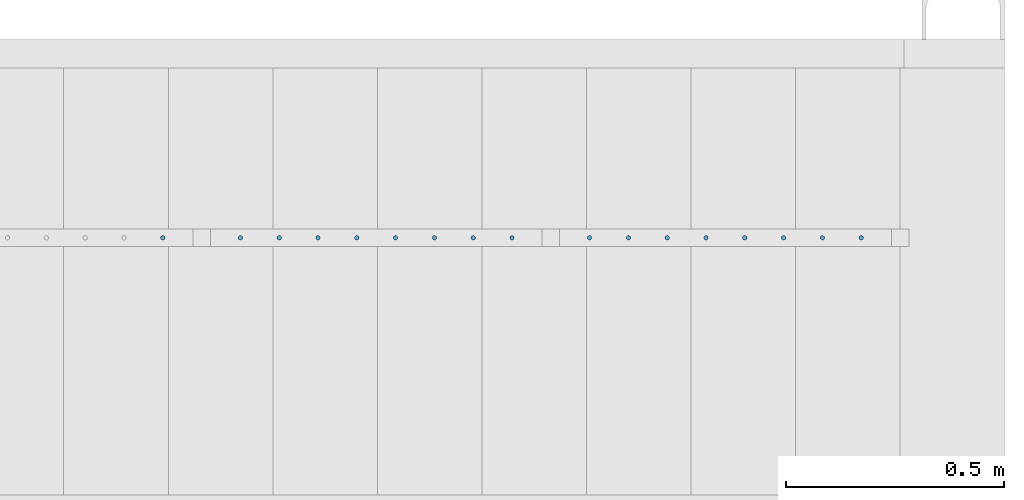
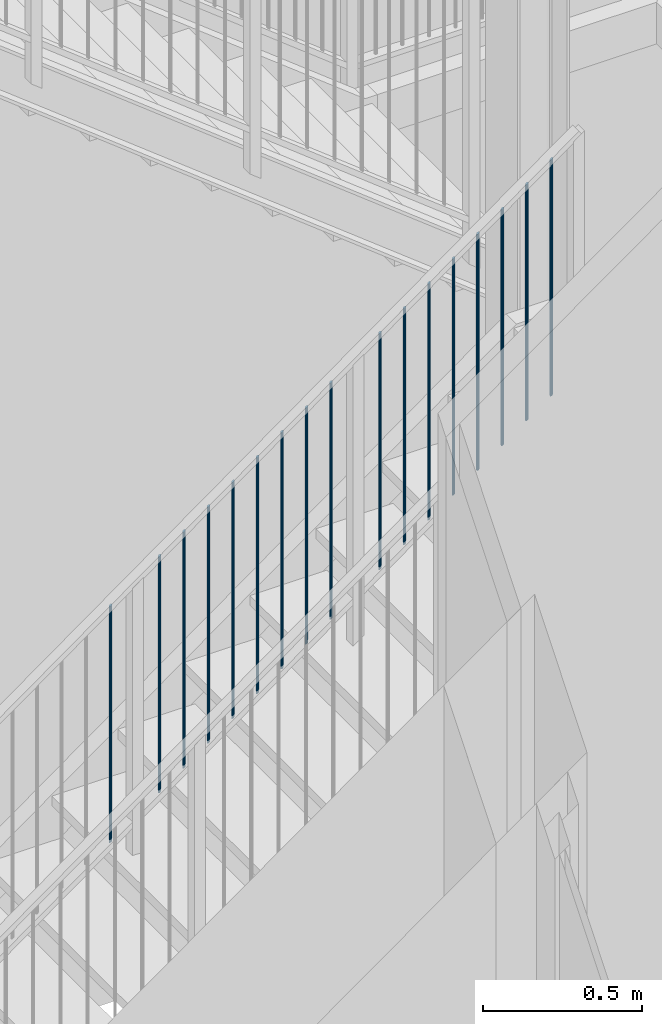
# One storey, part 25 of 135: 17 members, 1 element without a shape of its own.
"""IFC2X3 building model written with IfcOpenShell, lengths in millimetres."""

from ifc_helpers import new_model, entity, si_unit, converted_unit, derived_unit, money_unit, direction, frame, origin_with_axes, place, context, subcontext, project, spatial, faceted_brep, source, transform, mapped, material, type_object, type_shapes, element, aggregate, save


model = new_model("IFC2X3")

# Units and contexts
model_context = context("Model", 3, precision=0.01, world=origin_with_axes(), true_north=direction((0.0, 1.0)))
body_context = subcontext(model_context, "Body", "Model", "MODEL_VIEW")
ifc_project = project(units=[si_unit("LENGTHUNIT", "METRE", prefix="MILLI"), si_unit("AREAUNIT", "SQUARE_METRE"), si_unit("VOLUMEUNIT", "CUBIC_METRE"), converted_unit("PLANEANGLEUNIT", "DEGREE", entity("IfcPlaneAngleMeasure", 0.0174532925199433), si_unit("PLANEANGLEUNIT", "RADIAN"), dimensions=[0, 0, 0, 0, 0, 0, 0]), money_unit("EUR"), converted_unit("TIMEUNIT", "Year", entity("IfcTimeMeasure", 31557600.0), si_unit("TIMEUNIT", "SECOND"), dimensions=[0, 0, 1, 0, 0, 0, 0]), si_unit("MASSUNIT", "GRAM", prefix="KILO"), si_unit("THERMODYNAMICTEMPERATUREUNIT", "DEGREE_CELSIUS"), si_unit("LUMINOUSINTENSITYUNIT", "LUMEN"), si_unit("ENERGYUNIT", "JOULE", prefix="MEGA"), derived_unit("THERMALCONDUCTANCEUNIT", [(si_unit("POWERUNIT", "WATT"), 1), (si_unit("LENGTHUNIT", "METRE"), -1), (si_unit("THERMODYNAMICTEMPERATUREUNIT", "KELVIN"), -1)]), derived_unit("SPECIFICHEATCAPACITYUNIT", [(si_unit("ENERGYUNIT", "JOULE"), 1), (si_unit("MASSUNIT", "GRAM", prefix="KILO"), -1), (si_unit("THERMODYNAMICTEMPERATUREUNIT", "KELVIN"), -1)]), derived_unit("MASSDENSITYUNIT", [(si_unit("MASSUNIT", "GRAM", prefix="KILO"), 1), (si_unit("VOLUMEUNIT", "CUBIC_METRE"), -1)])], contexts=[model_context])

# Site, building, storey
site_placement = place(None, origin_with_axes())
site = spatial("IfcSite", under=ifc_project, at=site_placement, Name="Site", CompositionType="ELEMENT")
building_placement = place(site_placement, origin_with_axes())
building = spatial("IfcBuilding", under=site, at=building_placement, Name="Naam gebouw", CompositionType="ELEMENT")
storey_placement = place(building_placement, origin_with_axes())
storey = spatial("IfcBuildingStorey", under=building, at=storey_placement, Name="Begane grond N", CompositionType="ELEMENT", Elevation=0.0)

# Railing, members
railing_type = type_object("IfcRailingType", Name="Railing Type", PredefinedType="NOTDEFINED")
railing_placement = place(storey_placement, frame((56130.0, 21825.9124251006, 348.1433232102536), z_axis=(0.0, 0.0, 1.0), x_axis=(1.0, 0.0, 0.0)))
railing = element("IfcRailing", 1, at=railing_placement, inside=storey, type_object=railing_type, Name="_Reling-x", PredefinedType="NOTDEFINED")
ifc_material = material(Name="Metaal - Staal C")
member_type = type_object("IfcMemberType", Name="IfcMember", PredefinedType="MEMBER")
shared_shape = source(origin_with_axes(), body_context, "Body", "Brep", [
    faceted_brep([(0.0, -4.999999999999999, -3.602430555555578), (0.8682408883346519, -4.924038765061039, -3.547701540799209), (0.8682408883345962, -4.924038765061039, 903.9522984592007), (0.0, -4.999999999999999, 903.8975694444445), (-0.8682408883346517, -4.924038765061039, -3.547701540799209), (-1.710100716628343, -4.698463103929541, -3.385177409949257), (-2.500000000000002, -4.330127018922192, -3.119796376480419), (-3.213938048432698, -3.830222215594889, -2.759621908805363), (-3.830222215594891, -3.213938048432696, -2.315597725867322), (-4.330127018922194, -2.5, -1.80121527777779), (-4.698463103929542, -1.710100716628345, -1.232103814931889), (-4.924038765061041, -0.8682408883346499, -0.6255555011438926), (-5.0, 0.0, 0.0), (-4.92403876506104, 0.8682408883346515, 0.6255555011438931), (-4.698463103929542, 1.710100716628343, 1.232103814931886), (-4.330127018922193, 2.500000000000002, 1.801215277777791), (-3.83022221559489, 3.213938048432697, 2.315597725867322), (-3.213938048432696, 3.83022221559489, 2.759621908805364), (-2.5, 4.330127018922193, 3.119796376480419), (-1.710100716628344, 4.698463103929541, 3.385177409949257), (-0.8682408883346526, 4.924038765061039, 3.547701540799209), (0.0, 4.999999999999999, 3.602430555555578), (0.8682408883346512, 4.924038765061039, 3.547701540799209), (1.710100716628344, 4.698463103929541, 3.385177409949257), (2.5, 4.330127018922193, 3.119796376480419), (3.213938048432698, 3.830222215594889, 2.759621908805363), (3.83022221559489, 3.213938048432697, 2.315597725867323), (4.330127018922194, 2.499999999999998, 1.801215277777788), (4.698463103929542, 1.710100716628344, 1.232103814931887), (4.92403876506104, 0.8682408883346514, 0.6255555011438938), (5.0, 0.0, 0.0), (4.92403876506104, -0.868240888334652, -0.6255555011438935), (4.698463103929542, -1.710100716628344, -1.232103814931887), (4.330127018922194, -2.5, -1.801215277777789), (3.83022221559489, -3.213938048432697, -2.315597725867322), (3.213938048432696, -3.83022221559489, -2.759621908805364), (2.5, -4.330127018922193, -3.119796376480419), (1.710100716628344, -4.698463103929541, -3.385177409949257), (1.710100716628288, -4.698463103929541, 904.1148225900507), (2.499999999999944, -4.330127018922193, 904.3802036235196), (3.213938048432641, -3.83022221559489, 904.7403780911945), (3.830222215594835, -3.213938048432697, 905.1844022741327), (4.330127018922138, -2.5, 905.6987847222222), (4.698463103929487, -1.710100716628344, 906.2678961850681), (4.924038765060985, -0.868240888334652, 906.8744444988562), (4.999999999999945, 0.0, 907.5), (4.924038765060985, 0.8682408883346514, 908.1255555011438), (4.698463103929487, 1.710100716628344, 908.7321038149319), (4.330127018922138, 2.499999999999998, 909.3012152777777), (3.830222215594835, 3.213938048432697, 909.8155977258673), (3.213938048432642, 3.830222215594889, 910.2596219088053), (2.499999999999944, 4.330127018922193, 910.6197963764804), (1.710100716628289, 4.698463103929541, 910.8851774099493), (0.8682408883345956, 4.924038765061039, 911.0477015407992), (0.0, 4.999999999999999, 911.1024305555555), (-0.8682408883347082, 4.924038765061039, 911.0477015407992), (-1.710100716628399, 4.698463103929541, 910.8851774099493), (-2.500000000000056, 4.330127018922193, 910.6197963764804), (-3.213938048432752, 3.83022221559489, 910.2596219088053), (-3.830222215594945, 3.213938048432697, 909.8155977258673), (-4.330127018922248, 2.500000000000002, 909.3012152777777), (-4.698463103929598, 1.710100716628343, 908.7321038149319), (-4.924038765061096, 0.8682408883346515, 908.1255555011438), (-5.000000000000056, 0.0, 907.5), (-4.924038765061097, -0.8682408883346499, 906.8744444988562), (-4.698463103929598, -1.710100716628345, 906.2678961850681), (-4.330127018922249, -2.5, 905.6987847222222), (-3.830222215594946, -3.213938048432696, 905.1844022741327), (-3.213938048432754, -3.830222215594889, 904.7403780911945), (-2.500000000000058, -4.330127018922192, 904.3802036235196), (-1.710100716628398, -4.698463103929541, 904.1148225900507), (-0.8682408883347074, -4.924038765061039, 903.9522984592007)], [[[0, 1, 2, 3]], [[0, 4, 5, 6, 7, 8, 9, 10, 11, 12, 13, 14, 15, 16, 17, 18, 19, 20, 21, 22, 23, 24, 25, 26, 27, 28, 29, 30, 31, 32, 33, 34, 35, 36, 37, 1]], [[1, 37, 38, 2]], [[3, 2, 38, 39, 40, 41, 42, 43, 44, 45, 46, 47, 48, 49, 50, 51, 52, 53, 54, 55, 56, 57, 58, 59, 60, 61, 62, 63, 64, 65, 66, 67, 68, 69, 70, 71]], [[4, 0, 3, 71]], [[5, 4, 71, 70]], [[6, 5, 70, 69]], [[7, 6, 69, 68]], [[8, 7, 68, 67]], [[9, 8, 67, 66]], [[10, 9, 66, 65]], [[11, 10, 65, 64]], [[12, 11, 64, 63]], [[13, 12, 63, 62]], [[14, 13, 62, 61]], [[15, 14, 61, 60]], [[16, 15, 60, 59]], [[17, 16, 59, 58]], [[18, 17, 58, 57]], [[19, 18, 57, 56]], [[20, 19, 56, 55]], [[21, 20, 55, 54]], [[22, 21, 54, 53]], [[23, 22, 53, 52]], [[24, 23, 52, 51]], [[25, 24, 51, 50]], [[26, 25, 50, 49]], [[27, 26, 49, 48]], [[28, 27, 48, 47]], [[29, 28, 47, 46]], [[30, 29, 46, 45]], [[31, 30, 45, 44]], [[32, 31, 44, 43]], [[33, 32, 43, 42]], [[34, 33, 42, 41]], [[35, 34, 41, 40]], [[36, 35, 40, 39]], [[37, 36, 39, 38]]]),
])
type_shapes(member_type, [shared_shape])
member_1_placement = place(railing_placement, frame((947.3482510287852, 24.99999999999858, 583.4871899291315), z_axis=(0.0, 0.0, 1.0), x_axis=(1.0, 0.0, 0.0)))
member_1 = element("IfcMember", 2, at=member_1_placement, type_object=member_type, material=ifc_material, Name="_Spijlen-x", ObjectType="MEMBER", context=body_context, shape_type="MappedRepresentation", body=[
    mapped(shared_shape, transform((0.0, 0.0, 0.0), x_axis=(0.0, -1.0, 0.0), y_axis=(1.0, 0.0, 0.0), z_axis=(0.0, 0.0, 1.0))),
])
member_2_placement = place(railing_placement, frame((1125.522119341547, 24.99999999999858, 711.8589874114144), z_axis=(0.0, 0.0, 1.0), x_axis=(1.0, 0.0, 0.0)))
member_2 = element("IfcMember", 3, at=member_2_placement, type_object=member_type, material=ifc_material, Name="_Spijlen-x", ObjectType="MEMBER", context=body_context, shape_type="MappedRepresentation", body=[
    mapped(shared_shape, transform((0.0, 0.0, 0.0), x_axis=(0.0, -1.0, 0.0), y_axis=(1.0, 0.0, 0.0), z_axis=(0.0, 0.0, 1.0))),
])
member_3_placement = place(railing_placement, frame((1214.609053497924, 24.99999999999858, 776.0448861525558), z_axis=(0.0, 0.0, 1.0), x_axis=(1.0, 0.0, 0.0)))
member_3 = element("IfcMember", 4, at=member_3_placement, type_object=member_type, material=ifc_material, Name="_Spijlen-x", ObjectType="MEMBER", context=body_context, shape_type="MappedRepresentation", body=[
    mapped(shared_shape, transform((0.0, 0.0, 0.0), x_axis=(0.0, -1.0, 0.0), y_axis=(1.0, 0.0, 0.0), z_axis=(0.0, 0.0, 1.0))),
])
member_4_placement = place(railing_placement, frame((1303.695987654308, 24.99999999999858, 840.2307848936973), z_axis=(0.0, 0.0, 1.0), x_axis=(1.0, 0.0, 0.0)))
member_4 = element("IfcMember", 5, at=member_4_placement, type_object=member_type, material=ifc_material, Name="_Spijlen-x", ObjectType="MEMBER", context=body_context, shape_type="MappedRepresentation", body=[
    mapped(shared_shape, transform((0.0, 0.0, 0.0), x_axis=(0.0, -1.0, 0.0), y_axis=(1.0, 0.0, 0.0), z_axis=(0.0, 0.0, 1.0))),
])
member_5_placement = place(railing_placement, frame((1392.782921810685, 24.99999999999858, 904.4166836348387), z_axis=(0.0, 0.0, 1.0), x_axis=(1.0, 0.0, 0.0)))
member_5 = element("IfcMember", 6, at=member_5_placement, type_object=member_type, material=ifc_material, Name="_Spijlen-x", ObjectType="MEMBER", context=body_context, shape_type="MappedRepresentation", body=[
    mapped(shared_shape, transform((0.0, 0.0, 0.0), x_axis=(0.0, -1.0, 0.0), y_axis=(1.0, 0.0, 0.0), z_axis=(0.0, 0.0, 1.0))),
])
member_6_placement = place(railing_placement, frame((1481.869855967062, 24.99999999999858, 968.60258237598), z_axis=(0.0, 0.0, 1.0), x_axis=(1.0, 0.0, 0.0)))
member_6 = element("IfcMember", 7, at=member_6_placement, type_object=member_type, material=ifc_material, Name="_Spijlen-x", ObjectType="MEMBER", context=body_context, shape_type="MappedRepresentation", body=[
    mapped(shared_shape, transform((0.0, 0.0, 0.0), x_axis=(0.0, -1.0, 0.0), y_axis=(1.0, 0.0, 0.0), z_axis=(0.0, 0.0, 1.0))),
])
member_7_placement = place(railing_placement, frame((1570.956790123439, 24.99999999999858, 1032.788481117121), z_axis=(0.0, 0.0, 1.0), x_axis=(1.0, 0.0, 0.0)))
member_7 = element("IfcMember", 8, at=member_7_placement, type_object=member_type, material=ifc_material, Name="_Spijlen-x", ObjectType="MEMBER", context=body_context, shape_type="MappedRepresentation", body=[
    mapped(shared_shape, transform((0.0, 0.0, 0.0), x_axis=(0.0, -1.0, 0.0), y_axis=(1.0, 0.0, 0.0), z_axis=(0.0, 0.0, 1.0))),
])
member_8_placement = place(railing_placement, frame((1660.043724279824, 24.99999999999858, 1096.974379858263), z_axis=(0.0, 0.0, 1.0), x_axis=(1.0, 0.0, 0.0)))
member_8 = element("IfcMember", 9, at=member_8_placement, type_object=member_type, material=ifc_material, Name="_Spijlen-x", ObjectType="MEMBER", context=body_context, shape_type="MappedRepresentation", body=[
    mapped(shared_shape, transform((0.0, 0.0, 0.0), x_axis=(0.0, -1.0, 0.0), y_axis=(1.0, 0.0, 0.0), z_axis=(0.0, 0.0, 1.0))),
])
member_9_placement = place(railing_placement, frame((1749.130658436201, 24.99999999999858, 1161.160278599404), z_axis=(0.0, 0.0, 1.0), x_axis=(1.0, 0.0, 0.0)))
member_9 = element("IfcMember", 10, at=member_9_placement, type_object=member_type, material=ifc_material, Name="_Spijlen-x", ObjectType="MEMBER", context=body_context, shape_type="MappedRepresentation", body=[
    mapped(shared_shape, transform((0.0, 0.0, 0.0), x_axis=(0.0, -1.0, 0.0), y_axis=(1.0, 0.0, 0.0), z_axis=(0.0, 0.0, 1.0))),
])
member_10_placement = place(railing_placement, frame((1927.304526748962, 24.99999999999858, 1289.532076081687), z_axis=(0.0, 0.0, 1.0), x_axis=(1.0, 0.0, 0.0)))
member_10 = element("IfcMember", 11, at=member_10_placement, type_object=member_type, material=ifc_material, Name="_Spijlen-x", ObjectType="MEMBER", context=body_context, shape_type="MappedRepresentation", body=[
    mapped(shared_shape, transform((0.0, 0.0, 0.0), x_axis=(0.0, -1.0, 0.0), y_axis=(1.0, 0.0, 0.0), z_axis=(0.0, 0.0, 1.0))),
])
member_11_placement = place(railing_placement, frame((2016.391460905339, 24.99999999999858, 1353.717974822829), z_axis=(0.0, 0.0, 1.0), x_axis=(1.0, 0.0, 0.0)))
member_11 = element("IfcMember", 12, at=member_11_placement, type_object=member_type, material=ifc_material, Name="_Spijlen-x", ObjectType="MEMBER", context=body_context, shape_type="MappedRepresentation", body=[
    mapped(shared_shape, transform((0.0, 0.0, 0.0), x_axis=(0.0, -1.0, 0.0), y_axis=(1.0, 0.0, 0.0), z_axis=(0.0, 0.0, 1.0))),
])
member_12_placement = place(railing_placement, frame((2105.478395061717, 24.99999999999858, 1417.90387356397), z_axis=(0.0, 0.0, 1.0), x_axis=(1.0, 0.0, 0.0)))
member_12 = element("IfcMember", 13, at=member_12_placement, type_object=member_type, material=ifc_material, Name="_Spijlen-x", ObjectType="MEMBER", context=body_context, shape_type="MappedRepresentation", body=[
    mapped(shared_shape, transform((0.0, 0.0, 0.0), x_axis=(0.0, -1.0, 0.0), y_axis=(1.0, 0.0, 0.0), z_axis=(0.0, 0.0, 1.0))),
])
member_13_placement = place(railing_placement, frame((2194.5653292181, 24.99999999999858, 1482.089772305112), z_axis=(0.0, 0.0, 1.0), x_axis=(1.0, 0.0, 0.0)))
member_13 = element("IfcMember", 14, at=member_13_placement, type_object=member_type, material=ifc_material, Name="_Spijlen-x", ObjectType="MEMBER", context=body_context, shape_type="MappedRepresentation", body=[
    mapped(shared_shape, transform((0.0, 0.0, 0.0), x_axis=(0.0, -1.0, 0.0), y_axis=(1.0, 0.0, 0.0), z_axis=(0.0, 0.0, 1.0))),
])
member_14_placement = place(railing_placement, frame((2283.652263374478, 24.99999999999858, 1546.275671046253), z_axis=(0.0, 0.0, 1.0), x_axis=(1.0, 0.0, 0.0)))
member_14 = element("IfcMember", 15, at=member_14_placement, type_object=member_type, material=ifc_material, Name="_Spijlen-x", ObjectType="MEMBER", context=body_context, shape_type="MappedRepresentation", body=[
    mapped(shared_shape, transform((0.0, 0.0, 0.0), x_axis=(0.0, -1.0, 0.0), y_axis=(1.0, 0.0, 0.0), z_axis=(0.0, 0.0, 1.0))),
])
member_15_placement = place(railing_placement, frame((2372.739197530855, 24.99999999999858, 1610.461569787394), z_axis=(0.0, 0.0, 1.0), x_axis=(1.0, 0.0, 0.0)))
member_15 = element("IfcMember", 16, at=member_15_placement, type_object=member_type, material=ifc_material, Name="_Spijlen-x", ObjectType="MEMBER", context=body_context, shape_type="MappedRepresentation", body=[
    mapped(shared_shape, transform((0.0, 0.0, 0.0), x_axis=(0.0, -1.0, 0.0), y_axis=(1.0, 0.0, 0.0), z_axis=(0.0, 0.0, 1.0))),
])
member_16_placement = place(railing_placement, frame((2461.826131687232, 24.99999999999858, 1674.647468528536), z_axis=(0.0, 0.0, 1.0), x_axis=(1.0, 0.0, 0.0)))
member_16 = element("IfcMember", 17, at=member_16_placement, type_object=member_type, material=ifc_material, Name="_Spijlen-x", ObjectType="MEMBER", context=body_context, shape_type="MappedRepresentation", body=[
    mapped(shared_shape, transform((0.0, 0.0, 0.0), x_axis=(0.0, -1.0, 0.0), y_axis=(1.0, 0.0, 0.0), z_axis=(0.0, 0.0, 1.0))),
])
member_17_placement = place(railing_placement, frame((2550.913065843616, 24.99999999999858, 1738.833367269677), z_axis=(0.0, 0.0, 1.0), x_axis=(1.0, 0.0, 0.0)))
member_17 = element("IfcMember", 18, at=member_17_placement, type_object=member_type, material=ifc_material, Name="_Spijlen-x", ObjectType="MEMBER", context=body_context, shape_type="MappedRepresentation", body=[
    mapped(shared_shape, transform((0.0, 0.0, 0.0), x_axis=(0.0, -1.0, 0.0), y_axis=(1.0, 0.0, 0.0), z_axis=(0.0, 0.0, 1.0))),
])
aggregate(railing, [member_1, member_2, member_3, member_4, member_5, member_6, member_7, member_8, member_9, member_10, member_11, member_12, member_13, member_14, member_15, member_16, member_17])

save(model, "model.ifc")
